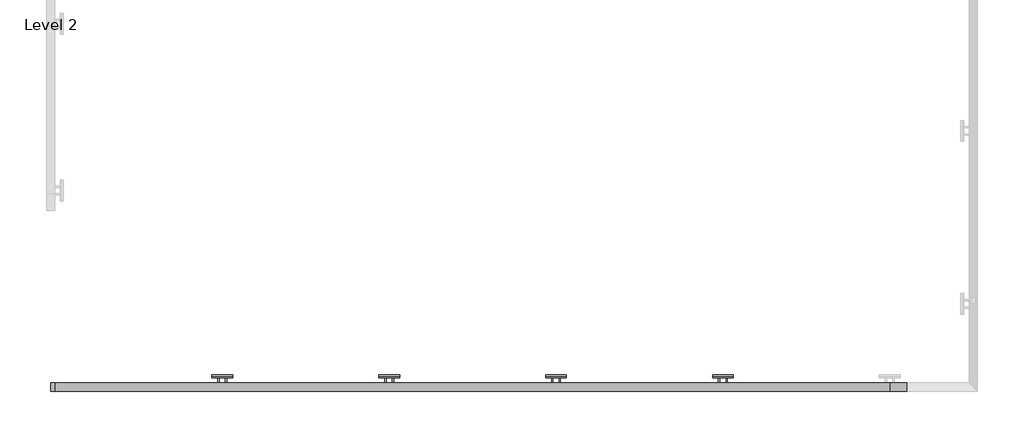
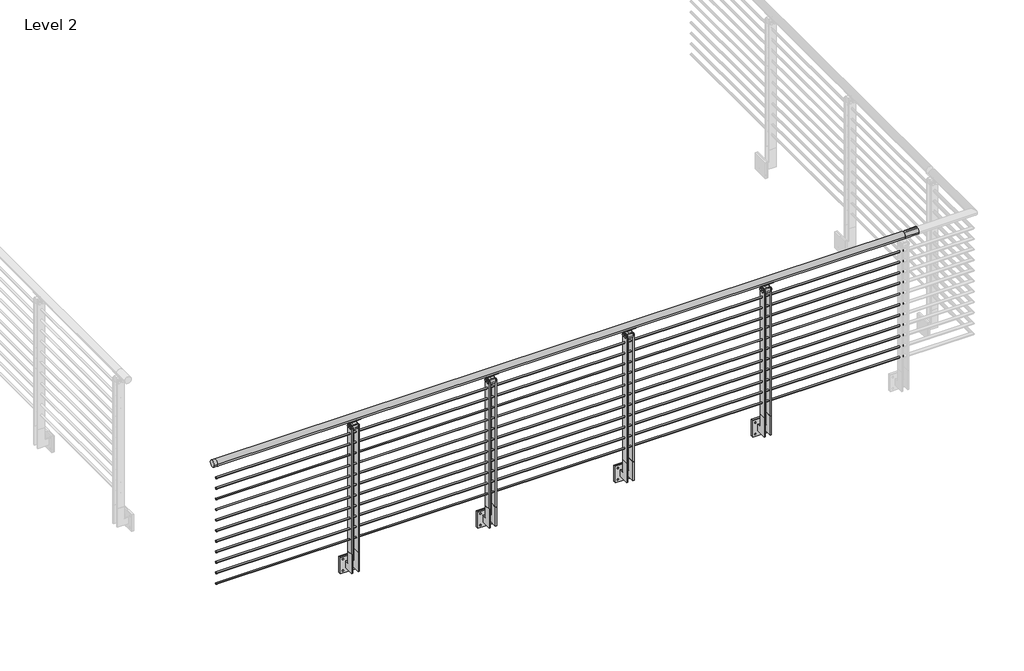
# One storey, part 2 of 31: 1 railing.
"""IFC4 building model written with IfcOpenShell, lengths in millimetres."""

from ifc_helpers import new_model, si_unit, point, frame, frame_2d, origin, place, context, project, spatial, polyline, circle_curve, trimmed, segment, composite_curve, outline, extrude, element, save
from ifc_brep_helpers import plane_surface, cylinder_surface, revolved_surface, advanced_brep

model = new_model("IFC4")

# Units and contexts
model_context = context("Model", 3, world=origin())
ifc_project = project(units=[si_unit("LENGTHUNIT", "METRE", prefix="MILLI")], contexts=[model_context])

# Site, building, storey
site = spatial("IfcSite", under=ifc_project)
building = spatial("IfcBuilding", under=site)
storey = spatial("IfcBuildingStorey", under=building, Name="Level 2", Elevation=3048.0)

# Railing
placement = place(None, origin())
element("IfcRailing", 1, ObjectType="VIVA-BLADE-Multiline-Fascia Mount-Straight", at=placement, inside=storey, context=model_context, shape_type="SolidModel", body=[
    advanced_brep(
    [(-9212.0054973, -70126.0428223, 4102.1), (-9212.0054973, -70176.8428223, 4102.1), (-4132.0054973, -70176.8428223, 4102.1), (-4132.0054973, -70126.0428223, 4102.1), (-4030.4054973, -70176.8428223, 4102.1), (-4030.4054973, -70126.0428223, 4102.1), (-9238.623146, -70176.8428223, 4102.1), (-9238.623146, -70126.0428223, 4102.1)],
    [
        (0, 1, circle_curve(frame((-9212.0054973, -70151.4428223, 4102.1), z_axis=(1.0, 0.0, 0.0), x_axis=(0.0, 1.0, 0.0)), 25.4)),
        (1, 2),
        (2, 3, circle_curve(frame((-4132.0054973, -70151.4428223, 4102.1), z_axis=(-1.0, 0.0, 0.0), x_axis=(0.0, 1.0, 0.0)), 25.4)),
        (3, 0),
        (1, 0, circle_curve(frame((-9212.0054973, -70151.4428223, 4102.1), z_axis=(1.0, 0.0, 0.0), x_axis=(0.0, 1.0, 0.0)), 25.4)),
        (3, 2, circle_curve(frame((-4132.0054973, -70151.4428223, 4102.1), z_axis=(-1.0, 0.0, 0.0), x_axis=(0.0, 1.0, 0.0)), 25.4)),
        (4, 5, circle_curve(frame((-4030.4054973, -70151.4428223, 4102.1), z_axis=(1.0, 0.0, 0.0), x_axis=(0.0, 1.0, 0.0)), 25.4)),
        (5, 4, circle_curve(frame((-4030.4054973, -70151.4428223, 4102.1), z_axis=(1.0, 0.0, 0.0), x_axis=(0.0, 1.0, 0.0)), 25.4)),
        (2, 4),
        (5, 3),
        (6, 7, circle_curve(frame((-9238.623146, -70151.4428223, 4102.1), z_axis=(-1.0, 0.0, 0.0), x_axis=(0.0, 1.0, 0.0)), 25.4)),
        (7, 6, circle_curve(frame((-9238.623146, -70151.4428223, 4102.1), z_axis=(-1.0, 0.0, 0.0), x_axis=(0.0, 1.0, 0.0)), 25.4)),
        (6, 1),
        (0, 7),
    ],
    [
        cylinder_surface(frame((-9212.0054973, -70151.4428223, 4102.1), z_axis=(-1.0, 0.0, 0.0), x_axis=(0.0, 1.0, 0.0)), 25.4),
        plane_surface(frame((-4030.4054973, -70151.4428223, 4127.5), z_axis=(1.0, 0.0, 0.0), x_axis=(0.0, 1.0, 0.0))),
        cylinder_surface(frame((-4132.0054973, -70151.4428223, 4102.1), z_axis=(-1.0, 0.0, 0.0), x_axis=(0.0, 1.0, 0.0)), 25.4),
        plane_surface(frame((-9238.623146, -70151.4428223, 4127.5), z_axis=(-1.0, 0.0, 0.0), x_axis=(0.0, 1.0, 0.0))),
        cylinder_surface(frame((-9238.623146, -70151.4428223, 4102.1), z_axis=(-1.0, 0.0, 0.0), x_axis=(0.0, 1.0, 0.0)), 25.4),
    ],
    [
        (0, [[1, 2, 3, 4]]),
        (0, [[5, -4, 6, -2]]),
        (1, [[7, 8]]),
        (2, [[-3, 9, -8, 10]]),
        (2, [[-6, -10, -7, -9]]),
        (3, [[11, 12]]),
        (4, [[-11, 13, -1, 14]]),
        (4, [[-12, -14, -5, -13]]),
    ],
),
    extrude(outline(composite_curve([segment(trimmed(circle_curve(frame_2d((-70151.4428223, 3981.45)), 6.35), [point((-70145.0928223, 3981.45))], [point((-70157.7928223, 3981.45))], False, "CARTESIAN"), True, "CONTINUOUS"), segment(trimmed(circle_curve(frame_2d((-70151.4428223, 3981.45)), 6.35), [point((-70157.7928223, 3981.45))], [point((-70145.0928223, 3981.45))], False, "CARTESIAN"), True, "CONTINUOUS")], self_intersect=False)), frame((-9212.0054973, 0.0, 0.0), z_axis=(1.0, 0.0, 0.0), x_axis=(0.0, 1.0, 0.0)), (0.0, 0.0, 1.0), 5080.0),
    extrude(outline(composite_curve([segment(trimmed(circle_curve(frame_2d((-70151.4428223, 3898.9)), 6.35), [point((-70145.0928223, 3898.9))], [point((-70157.7928223, 3898.9))], False, "CARTESIAN"), True, "CONTINUOUS"), segment(trimmed(circle_curve(frame_2d((-70151.4428223, 3898.9)), 6.35), [point((-70157.7928223, 3898.9))], [point((-70145.0928223, 3898.9))], False, "CARTESIAN"), True, "CONTINUOUS")], self_intersect=False)), frame((-9212.0054973, 0.0, 0.0), z_axis=(1.0, 0.0, 0.0), x_axis=(0.0, 1.0, 0.0)), (0.0, 0.0, 1.0), 5080.0),
    extrude(outline(composite_curve([segment(trimmed(circle_curve(frame_2d((-70151.4428223, 3816.35)), 6.35), [point((-70145.0928223, 3816.35))], [point((-70157.7928223, 3816.35))], False, "CARTESIAN"), True, "CONTINUOUS"), segment(trimmed(circle_curve(frame_2d((-70151.4428223, 3816.35)), 6.35), [point((-70157.7928223, 3816.35))], [point((-70145.0928223, 3816.35))], False, "CARTESIAN"), True, "CONTINUOUS")], self_intersect=False)), frame((-9212.0054973, 0.0, 0.0), z_axis=(1.0, 0.0, 0.0), x_axis=(0.0, 1.0, 0.0)), (0.0, 0.0, 1.0), 5080.0),
    extrude(outline(composite_curve([segment(trimmed(circle_curve(frame_2d((-70151.4428223, 3733.8)), 6.35), [point((-70145.0928223, 3733.8))], [point((-70157.7928223, 3733.8))], False, "CARTESIAN"), True, "CONTINUOUS"), segment(trimmed(circle_curve(frame_2d((-70151.4428223, 3733.8)), 6.35), [point((-70157.7928223, 3733.8))], [point((-70145.0928223, 3733.8))], False, "CARTESIAN"), True, "CONTINUOUS")], self_intersect=False)), frame((-9212.0054973, 0.0, 0.0), z_axis=(1.0, 0.0, 0.0), x_axis=(0.0, 1.0, 0.0)), (0.0, 0.0, 1.0), 5080.0),
    extrude(outline(composite_curve([segment(trimmed(circle_curve(frame_2d((-70151.4428223, 3651.25)), 6.35), [point((-70145.0928223, 3651.25))], [point((-70157.7928223, 3651.25))], False, "CARTESIAN"), True, "CONTINUOUS"), segment(trimmed(circle_curve(frame_2d((-70151.4428223, 3651.25)), 6.35), [point((-70157.7928223, 3651.25))], [point((-70145.0928223, 3651.25))], False, "CARTESIAN"), True, "CONTINUOUS")], self_intersect=False)), frame((-9212.0054973, 0.0, 0.0), z_axis=(1.0, 0.0, 0.0), x_axis=(0.0, 1.0, 0.0)), (0.0, 0.0, 1.0), 5080.0),
    extrude(outline(composite_curve([segment(trimmed(circle_curve(frame_2d((-70151.4428223, 3568.7)), 6.35), [point((-70145.0928223, 3568.7))], [point((-70157.7928223, 3568.7))], False, "CARTESIAN"), True, "CONTINUOUS"), segment(trimmed(circle_curve(frame_2d((-70151.4428223, 3568.7)), 6.35), [point((-70157.7928223, 3568.7))], [point((-70145.0928223, 3568.7))], False, "CARTESIAN"), True, "CONTINUOUS")], self_intersect=False)), frame((-9212.0054973, 0.0, 0.0), z_axis=(1.0, 0.0, 0.0), x_axis=(0.0, 1.0, 0.0)), (0.0, 0.0, 1.0), 5080.0),
    extrude(outline(composite_curve([segment(trimmed(circle_curve(frame_2d((-70151.4428223, 3486.15)), 6.35), [point((-70145.0928223, 3486.15))], [point((-70157.7928223, 3486.15))], False, "CARTESIAN"), True, "CONTINUOUS"), segment(trimmed(circle_curve(frame_2d((-70151.4428223, 3486.15)), 6.35), [point((-70157.7928223, 3486.15))], [point((-70145.0928223, 3486.15))], False, "CARTESIAN"), True, "CONTINUOUS")], self_intersect=False)), frame((-9212.0054973, 0.0, 0.0), z_axis=(1.0, 0.0, 0.0), x_axis=(0.0, 1.0, 0.0)), (0.0, 0.0, 1.0), 5080.0),
    extrude(outline(composite_curve([segment(trimmed(circle_curve(frame_2d((-70151.4428223, 3403.6)), 6.35), [point((-70145.0928223, 3403.6))], [point((-70157.7928223, 3403.6))], False, "CARTESIAN"), True, "CONTINUOUS"), segment(trimmed(circle_curve(frame_2d((-70151.4428223, 3403.6)), 6.35), [point((-70157.7928223, 3403.6))], [point((-70145.0928223, 3403.6))], False, "CARTESIAN"), True, "CONTINUOUS")], self_intersect=False)), frame((-9212.0054973, 0.0, 0.0), z_axis=(1.0, 0.0, 0.0), x_axis=(0.0, 1.0, 0.0)), (0.0, 0.0, 1.0), 5080.0),
    extrude(outline(composite_curve([segment(trimmed(circle_curve(frame_2d((-70151.4428223, 3321.05)), 6.35), [point((-70145.0928223, 3321.05))], [point((-70157.7928223, 3321.05))], False, "CARTESIAN"), True, "CONTINUOUS"), segment(trimmed(circle_curve(frame_2d((-70151.4428223, 3321.05)), 6.35), [point((-70157.7928223, 3321.05))], [point((-70145.0928223, 3321.05))], False, "CARTESIAN"), True, "CONTINUOUS")], self_intersect=False)), frame((-9212.0054973, 0.0, 0.0), z_axis=(1.0, 0.0, 0.0), x_axis=(0.0, 1.0, 0.0)), (0.0, 0.0, 1.0), 5080.0),
    extrude(outline(composite_curve([segment(trimmed(circle_curve(frame_2d((-70151.4428223, 3238.5)), 6.35), [point((-70145.0928223, 3238.5))], [point((-70157.7928223, 3238.5))], False, "CARTESIAN"), True, "CONTINUOUS"), segment(trimmed(circle_curve(frame_2d((-70151.4428223, 3238.5)), 6.35), [point((-70157.7928223, 3238.5))], [point((-70145.0928223, 3238.5))], False, "CARTESIAN"), True, "CONTINUOUS")], self_intersect=False)), frame((-9212.0054973, 0.0, 0.0), z_axis=(1.0, 0.0, 0.0), x_axis=(0.0, 1.0, 0.0)), (0.0, 0.0, 1.0), 5080.0),
    extrude(outline(composite_curve([segment(trimmed(circle_curve(frame_2d((-70151.4428223, 3155.95)), 6.35), [point((-70145.0928223, 3155.95))], [point((-70157.7928223, 3155.95))], False, "CARTESIAN"), True, "CONTINUOUS"), segment(trimmed(circle_curve(frame_2d((-70151.4428223, 3155.95)), 6.35), [point((-70157.7928223, 3155.95))], [point((-70145.0928223, 3155.95))], False, "CARTESIAN"), True, "CONTINUOUS")], self_intersect=False)), frame((-9212.0054973, 0.0, 0.0), z_axis=(1.0, 0.0, 0.0), x_axis=(0.0, 1.0, 0.0)), (0.0, 0.0, 1.0), 5080.0),
    extrude(outline(polyline([(-70176.8453502, 2901.95), (-70176.8453502, 3048.0), (-70126.0453502, 3048.0), (-70126.0453502, 2952.75), (-70094.2926165, 2952.75), (-70094.2926165, 2901.95), (-70176.8453502, 2901.95)])), frame((-5175.080333, 0.0, 0.0), z_axis=(1.0, 0.0, 0.0), x_axis=(0.0, 1.0, 0.0)), (0.0, 0.0, 1.0), 8.0248357),
    extrude(outline(polyline([(-70126.0453502, 3048.0), (-70126.0453502, 2952.75), (-70094.2926165, 2952.75), (-70094.2926165, 2901.95), (-70176.8453502, 2901.95), (-70176.8453502, 3048.0), (-70126.0453502, 3048.0)])), frame((-5128.9555354, 0.0, 0.0), z_axis=(1.0, 0.0, 0.0), x_axis=(0.0, 1.0, 0.0)), (0.0, 0.0, 1.0), 8.001),
    advanced_brep(
    [(-5102.7680973, -70138.6826986, 4080.0967655), (-5102.7680973, -70163.5547632, 4079.9535285), (-5102.7680973, -70166.3636935, 4075.1267745), (-5102.7680973, -70134.8468012, 4075.707533), (-5193.2428973, -70138.6826986, 4080.0967655), (-5193.2428973, -70134.8468012, 4075.707533), (-5193.2428973, -70166.4774869, 4075.1893964), (-5193.2428973, -70163.6417353, 4080.0018447)],
    [
        (0, 1, circle_curve(frame((-5102.7680973, -70151.2465015, 4102.2115898), z_axis=(-1.0, 0.0, 0.0), x_axis=(0.0, 1.0, 0.0)), 25.4345159)),
        (1, 2, circle_curve(frame((-5102.7680973, -70164.8863884, 4077.4993599), z_axis=(1.0, 0.0, 0.0), x_axis=(0.0, 1.0, 0.0)), 2.7949225)),
        (2, 3, circle_curve(frame((-5102.7680973, -70151.1130385, 4102.9742164), z_axis=(1.0, 0.0, 0.0), x_axis=(0.0, 1.0, 0.0)), 31.75)),
        (3, 0, circle_curve(frame((-5102.7680973, -70137.135141, 4077.5784521), z_axis=(1.0, 0.0, 0.0), x_axis=(0.0, 1.0, 0.0)), 2.9558141)),
        (4, 5, circle_curve(frame((-5193.2428973, -70137.135141, 4077.5784521), z_axis=(-1.0, 0.0, 0.0), x_axis=(0.0, 1.0, 0.0)), 2.9558141)),
        (5, 6, circle_curve(frame((-5193.2428973, -70151.1130385, 4102.9742164), z_axis=(-1.0, 0.0, 0.0), x_axis=(0.0, 1.0, 0.0)), 31.75)),
        (6, 7, circle_curve(frame((-5193.2428973, -70164.8863884, 4077.4993599), z_axis=(-1.0, 0.0, 0.0), x_axis=(0.0, 1.0, 0.0)), 2.7949225)),
        (7, 4, circle_curve(frame((-5193.2428973, -70151.2465015, 4102.2115898), z_axis=(1.0, 0.0, 0.0), x_axis=(0.0, 1.0, 0.0)), 25.4345159)),
        (0, 4),
        (7, 1),
        (6, 2),
        (5, 3),
    ],
    [
        plane_surface(frame((-5102.7680973, -70125.8119857, 4102.2115898), z_axis=(1.0, 0.0, 0.0), x_axis=(0.0, 0.0, -1.0))),
        plane_surface(frame((-5193.2428973, -70125.8119857, 4102.2115898), z_axis=(-1.0, 0.0, 0.0), x_axis=(0.0, 0.0, 1.0))),
        revolved_surface(polyline([(-5193.2428973, -70125.81198560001, 4102.2115898), (-5102.7680973, -70125.81198560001, 4102.2115898)]), (-5193.2428973, -70151.2465015, 4102.2115898), (-1.0, 0.0, 0.0)),
        cylinder_surface(frame((-5193.2428973, -70164.8863884, 4077.4993599), z_axis=(1.0, 0.0, 0.0), x_axis=(0.0, 1.0, 0.0)), 2.7949225),
        cylinder_surface(frame((-5193.2428973, -70151.1130385, 4102.9742164), z_axis=(1.0, 0.0, 0.0), x_axis=(0.0, 1.0, 0.0)), 31.75),
        cylinder_surface(frame((-5193.2428973, -70137.135141, 4077.5784521), z_axis=(1.0, 0.0, 0.0), x_axis=(0.0, 1.0, 0.0)), 2.9558141),
    ],
    [
        (0, [[1, 2, 3, 4]]),
        (1, [[5, 6, 7, 8]]),
        (2, [[-1, 9, -8, 10]]),
        (3, [[-2, -10, -7, 11]]),
        (4, [[-3, -11, -6, 12]]),
        (5, [[-4, -12, -5, -9]]),
    ],
),
    extrude(outline(polyline([(-5084.5174342, -70075.2426165), (-5084.5174342, -70084.7676165), (-5211.5174342, -70084.7676165), (-5211.5174342, -70075.2426165), (-5084.5174342, -70075.2426165)])), frame((0.0, 0.0, 2863.85), z_axis=(0.0, 0.0, 1.0), x_axis=(1.0, 0.0, 0.0)), (0.0, 0.0, 1.0), 127.0),
    extrude(outline(composite_curve([segment(trimmed(circle_curve(frame_2d((4062.4125, -5120.9375825)), 14.3679149), [point((4062.4125, -5135.3054973))], [point((4076.7804149, -5120.9375825))], True, "CARTESIAN"), True, "CONTINUOUS"), segment(polyline([(4076.7804149, -5120.9375825), (4076.7804149, -5175.0734122)]), True, "CONTINUOUS"), segment(trimmed(circle_curve(frame_2d((4062.4125, -5175.0734122)), 14.3679149), [point((4076.7804149, -5175.0734122))], [point((4062.4125, -5160.7054973))], True, "CARTESIAN"), True, "CONTINUOUS"), segment(polyline([(4062.4125, -5160.7054973), (4062.4125, -5135.3054973)]), True, "CONTINUOUS")], self_intersect=False)), frame((0.0, -70153.9828223, 0.0), z_axis=(0.0, 1.0, 0.0), x_axis=(0.0, 0.0, 1.0)), (0.0, 0.0, 1.0), 5.08),
    extrude(outline(polyline([(-5175.080333, -70126.0430256), (-5167.0554973, -70126.0430256), (-5167.0554973, -70176.8453502), (-5175.080333, -70176.8453502), (-5175.080333, -70126.0430256)])), frame((0.0, 0.0, 3048.0), z_axis=(0.0, 0.0, 1.0), x_axis=(1.0, 0.0, 0.0)), (0.0, 0.0, 1.0), 996.95),
    extrude(outline(polyline([(2863.85, -5211.5174342), (2863.85, -5084.5174342), (2990.85, -5084.5174342), (2990.85, -5211.5174342), (2863.85, -5211.5174342)]), holes=[composite_curve([segment(trimmed(circle_curve(frame_2d((2971.8, -5192.4674342)), 4.7068371), [point((2971.8, -5187.7605971))], [point((2971.8, -5197.1742713))], True, "CARTESIAN"), True, "CONTINUOUS"), segment(trimmed(circle_curve(frame_2d((2971.8, -5192.4674342)), 4.7068371), [point((2971.8, -5197.1742713))], [point((2971.8, -5187.7605971))], True, "CARTESIAN"), True, "CONTINUOUS")], self_intersect=False), composite_curve([segment(trimmed(circle_curve(frame_2d((2971.8, -5103.5674342)), 4.7068371), [point((2971.8, -5098.8605971))], [point((2971.8, -5108.2742713))], True, "CARTESIAN"), True, "CONTINUOUS"), segment(trimmed(circle_curve(frame_2d((2971.8, -5103.5674342)), 4.7068371), [point((2971.8, -5108.2742713))], [point((2971.8, -5098.8605971))], True, "CARTESIAN"), True, "CONTINUOUS")], self_intersect=False), composite_curve([segment(trimmed(circle_curve(frame_2d((2882.9, -5103.5674342)), 4.7068371), [point((2882.9, -5098.8605971))], [point((2882.9, -5108.2742713))], True, "CARTESIAN"), True, "CONTINUOUS"), segment(trimmed(circle_curve(frame_2d((2882.9, -5103.5674342)), 4.7068371), [point((2882.9, -5108.2742713))], [point((2882.9, -5098.8605971))], True, "CARTESIAN"), True, "CONTINUOUS")], self_intersect=False), composite_curve([segment(trimmed(circle_curve(frame_2d((2882.9, -5192.4674342)), 4.7068371), [point((2882.9, -5187.7605971))], [point((2882.9, -5197.1742713))], True, "CARTESIAN"), True, "CONTINUOUS"), segment(trimmed(circle_curve(frame_2d((2882.9, -5192.4674342)), 4.7068371), [point((2882.9, -5197.1742713))], [point((2882.9, -5187.7605971))], True, "CARTESIAN"), True, "CONTINUOUS")], self_intersect=False)]), frame((0.0, -70094.2926165, 0.0), z_axis=(0.0, 1.0, 0.0), x_axis=(0.0, 0.0, 1.0)), (0.0, 0.0, 1.0), 9.525),
    extrude(outline(composite_curve([segment(trimmed(circle_curve(frame_2d((-70164.1452992, 4034.0416929)), 8.89), [point((-70173.0352992, 4034.0416929))], [point((-70155.2552992, 4034.0416929))], False, "CARTESIAN"), True, "CONTINUOUS"), segment(trimmed(circle_curve(frame_2d((-70164.1452992, 4034.0416929)), 8.89), [point((-70155.2552992, 4034.0416929))], [point((-70173.0352992, 4034.0416929))], False, "CARTESIAN"), True, "CONTINUOUS")], self_intersect=False)), frame((-5179.7554973, 0.0, 0.0), z_axis=(1.0, 0.0, 0.0), x_axis=(0.0, 1.0, 0.0)), (0.0, 0.0, 1.0), 63.4880631),
    extrude(outline(composite_curve([segment(trimmed(circle_curve(frame_2d((-70138.7454012, 4034.0416929)), 8.89), [point((-70147.6354012, 4034.0416929))], [point((-70129.8554012, 4034.0416929))], False, "CARTESIAN"), True, "CONTINUOUS"), segment(trimmed(circle_curve(frame_2d((-70138.7454012, 4034.0416929)), 8.89), [point((-70129.8554012, 4034.0416929))], [point((-70147.6354012, 4034.0416929))], False, "CARTESIAN"), True, "CONTINUOUS")], self_intersect=False)), frame((-5179.7554973, 0.0, 0.0), z_axis=(1.0, 0.0, 0.0), x_axis=(0.0, 1.0, 0.0)), (0.0, 0.0, 1.0), 63.4880631),
    extrude(outline(polyline([(4022.7123, -5167.0554973), (4022.7123, -5128.9554973), (4056.0625, -5128.9554973), (4062.4125, -5135.3054973), (4062.4125, -5160.7054973), (4056.0625, -5167.0554973), (4022.7123, -5167.0554973)])), frame((0.0, -70176.8453502, 0.0), z_axis=(0.0, 1.0, 0.0), x_axis=(0.0, 0.0, 1.0)), (0.0, 0.0, 1.0), 50.8025279),
    extrude(outline(polyline([(-5128.9555354, -70126.0430256), (-5120.9545354, -70126.0430256), (-5120.9545354, -70176.8453502), (-5128.9555354, -70176.8453502), (-5128.9555354, -70126.0430256)])), frame((0.0, 0.0, 3048.0), z_axis=(0.0, 0.0, 1.0), x_axis=(1.0, 0.0, 0.0)), (0.0, 0.0, 1.0), 996.95),
    extrude(outline(polyline([(-70176.8453502, 2901.95), (-70176.8453502, 3048.0), (-70126.0453502, 3048.0), (-70126.0453502, 2952.75), (-70094.2926165, 2952.75), (-70094.2926165, 2901.95), (-70176.8453502, 2901.95)])), frame((-6191.080333, 0.0, 0.0), z_axis=(1.0, 0.0, 0.0), x_axis=(0.0, 1.0, 0.0)), (0.0, 0.0, 1.0), 8.0248357),
    extrude(outline(polyline([(-70126.0453502, 3048.0), (-70126.0453502, 2952.75), (-70094.2926165, 2952.75), (-70094.2926165, 2901.95), (-70176.8453502, 2901.95), (-70176.8453502, 3048.0), (-70126.0453502, 3048.0)])), frame((-6144.9555354, 0.0, 0.0), z_axis=(1.0, 0.0, 0.0), x_axis=(0.0, 1.0, 0.0)), (0.0, 0.0, 1.0), 8.001),
    advanced_brep(
    [(-6118.7680973, -70138.6826986, 4080.0967655), (-6118.7680973, -70163.5547632, 4079.9535285), (-6118.7680973, -70166.3636935, 4075.1267745), (-6118.7680973, -70134.8468012, 4075.707533), (-6209.2428973, -70138.6826986, 4080.0967655), (-6209.2428973, -70134.8468012, 4075.707533), (-6209.2428973, -70166.4774869, 4075.1893964), (-6209.2428973, -70163.6417353, 4080.0018447)],
    [
        (0, 1, circle_curve(frame((-6118.7680973, -70151.2465015, 4102.2115898), z_axis=(-1.0, 0.0, 0.0), x_axis=(0.0, 1.0, 0.0)), 25.4345159)),
        (1, 2, circle_curve(frame((-6118.7680973, -70164.8863884, 4077.4993599), z_axis=(1.0, 0.0, 0.0), x_axis=(0.0, 1.0, 0.0)), 2.7949225)),
        (2, 3, circle_curve(frame((-6118.7680973, -70151.1130385, 4102.9742164), z_axis=(1.0, 0.0, 0.0), x_axis=(0.0, 1.0, 0.0)), 31.75)),
        (3, 0, circle_curve(frame((-6118.7680973, -70137.135141, 4077.5784521), z_axis=(1.0, 0.0, 0.0), x_axis=(0.0, 1.0, 0.0)), 2.9558141)),
        (4, 5, circle_curve(frame((-6209.2428973, -70137.135141, 4077.5784521), z_axis=(-1.0, 0.0, 0.0), x_axis=(0.0, 1.0, 0.0)), 2.9558141)),
        (5, 6, circle_curve(frame((-6209.2428973, -70151.1130385, 4102.9742164), z_axis=(-1.0, 0.0, 0.0), x_axis=(0.0, 1.0, 0.0)), 31.75)),
        (6, 7, circle_curve(frame((-6209.2428973, -70164.8863884, 4077.4993599), z_axis=(-1.0, 0.0, 0.0), x_axis=(0.0, 1.0, 0.0)), 2.7949225)),
        (7, 4, circle_curve(frame((-6209.2428973, -70151.2465015, 4102.2115898), z_axis=(1.0, 0.0, 0.0), x_axis=(0.0, 1.0, 0.0)), 25.4345159)),
        (0, 4),
        (7, 1),
        (6, 2),
        (5, 3),
    ],
    [
        plane_surface(frame((-6118.7680973, -70125.8119857, 4102.2115898), z_axis=(1.0, 0.0, 0.0), x_axis=(0.0, 0.0, -1.0))),
        plane_surface(frame((-6209.2428973, -70125.8119857, 4102.2115898), z_axis=(-1.0, 0.0, 0.0), x_axis=(0.0, 0.0, 1.0))),
        revolved_surface(polyline([(-6209.2428973, -70125.81198560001, 4102.2115898), (-6118.7680973, -70125.81198560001, 4102.2115898)]), (-6209.2428973, -70151.2465015, 4102.2115898), (-1.0, 0.0, 0.0)),
        cylinder_surface(frame((-6209.2428973, -70164.8863884, 4077.4993599), z_axis=(1.0, 0.0, 0.0), x_axis=(0.0, 1.0, 0.0)), 2.7949225),
        cylinder_surface(frame((-6209.2428973, -70151.1130385, 4102.9742164), z_axis=(1.0, 0.0, 0.0), x_axis=(0.0, 1.0, 0.0)), 31.75),
        cylinder_surface(frame((-6209.2428973, -70137.135141, 4077.5784521), z_axis=(1.0, 0.0, 0.0), x_axis=(0.0, 1.0, 0.0)), 2.9558141),
    ],
    [
        (0, [[1, 2, 3, 4]]),
        (1, [[5, 6, 7, 8]]),
        (2, [[-1, 9, -8, 10]]),
        (3, [[-2, -10, -7, 11]]),
        (4, [[-3, -11, -6, 12]]),
        (5, [[-4, -12, -5, -9]]),
    ],
),
    extrude(outline(polyline([(-6100.5174342, -70075.2426165), (-6100.5174342, -70084.7676165), (-6227.5174342, -70084.7676165), (-6227.5174342, -70075.2426165), (-6100.5174342, -70075.2426165)])), frame((0.0, 0.0, 2863.85), z_axis=(0.0, 0.0, 1.0), x_axis=(1.0, 0.0, 0.0)), (0.0, 0.0, 1.0), 127.0),
    extrude(outline(composite_curve([segment(trimmed(circle_curve(frame_2d((4062.4125, -6136.9375825)), 14.3679149), [point((4062.4125, -6151.3054973))], [point((4076.7804149, -6136.9375825))], True, "CARTESIAN"), True, "CONTINUOUS"), segment(polyline([(4076.7804149, -6136.9375825), (4076.7804149, -6191.0734122)]), True, "CONTINUOUS"), segment(trimmed(circle_curve(frame_2d((4062.4125, -6191.0734122)), 14.3679149), [point((4076.7804149, -6191.0734122))], [point((4062.4125, -6176.7054973))], True, "CARTESIAN"), True, "CONTINUOUS"), segment(polyline([(4062.4125, -6176.7054973), (4062.4125, -6151.3054973)]), True, "CONTINUOUS")], self_intersect=False)), frame((0.0, -70153.9828223, 0.0), z_axis=(0.0, 1.0, 0.0), x_axis=(0.0, 0.0, 1.0)), (0.0, 0.0, 1.0), 5.08),
    extrude(outline(polyline([(-6191.080333, -70126.0430256), (-6183.0554973, -70126.0430256), (-6183.0554973, -70176.8453502), (-6191.080333, -70176.8453502), (-6191.080333, -70126.0430256)])), frame((0.0, 0.0, 3048.0), z_axis=(0.0, 0.0, 1.0), x_axis=(1.0, 0.0, 0.0)), (0.0, 0.0, 1.0), 996.95),
    extrude(outline(polyline([(2863.85, -6227.5174342), (2863.85, -6100.5174342), (2990.85, -6100.5174342), (2990.85, -6227.5174342), (2863.85, -6227.5174342)]), holes=[composite_curve([segment(trimmed(circle_curve(frame_2d((2971.8, -6208.4674342)), 4.7068371), [point((2971.8, -6203.7605971))], [point((2971.8, -6213.1742713))], True, "CARTESIAN"), True, "CONTINUOUS"), segment(trimmed(circle_curve(frame_2d((2971.8, -6208.4674342)), 4.7068371), [point((2971.8, -6213.1742713))], [point((2971.8, -6203.7605971))], True, "CARTESIAN"), True, "CONTINUOUS")], self_intersect=False), composite_curve([segment(trimmed(circle_curve(frame_2d((2971.8, -6119.5674342)), 4.7068371), [point((2971.8, -6114.8605971))], [point((2971.8, -6124.2742713))], True, "CARTESIAN"), True, "CONTINUOUS"), segment(trimmed(circle_curve(frame_2d((2971.8, -6119.5674342)), 4.7068371), [point((2971.8, -6124.2742713))], [point((2971.8, -6114.8605971))], True, "CARTESIAN"), True, "CONTINUOUS")], self_intersect=False), composite_curve([segment(trimmed(circle_curve(frame_2d((2882.9, -6119.5674342)), 4.7068371), [point((2882.9, -6114.8605971))], [point((2882.9, -6124.2742713))], True, "CARTESIAN"), True, "CONTINUOUS"), segment(trimmed(circle_curve(frame_2d((2882.9, -6119.5674342)), 4.7068371), [point((2882.9, -6124.2742713))], [point((2882.9, -6114.8605971))], True, "CARTESIAN"), True, "CONTINUOUS")], self_intersect=False), composite_curve([segment(trimmed(circle_curve(frame_2d((2882.9, -6208.4674342)), 4.7068371), [point((2882.9, -6203.7605971))], [point((2882.9, -6213.1742713))], True, "CARTESIAN"), True, "CONTINUOUS"), segment(trimmed(circle_curve(frame_2d((2882.9, -6208.4674342)), 4.7068371), [point((2882.9, -6213.1742713))], [point((2882.9, -6203.7605971))], True, "CARTESIAN"), True, "CONTINUOUS")], self_intersect=False)]), frame((0.0, -70094.2926165, 0.0), z_axis=(0.0, 1.0, 0.0), x_axis=(0.0, 0.0, 1.0)), (0.0, 0.0, 1.0), 9.525),
    extrude(outline(composite_curve([segment(trimmed(circle_curve(frame_2d((-70164.1452992, 4034.0416929)), 8.89), [point((-70173.0352992, 4034.0416929))], [point((-70155.2552992, 4034.0416929))], False, "CARTESIAN"), True, "CONTINUOUS"), segment(trimmed(circle_curve(frame_2d((-70164.1452992, 4034.0416929)), 8.89), [point((-70155.2552992, 4034.0416929))], [point((-70173.0352992, 4034.0416929))], False, "CARTESIAN"), True, "CONTINUOUS")], self_intersect=False)), frame((-6195.7554973, 0.0, 0.0), z_axis=(1.0, 0.0, 0.0), x_axis=(0.0, 1.0, 0.0)), (0.0, 0.0, 1.0), 63.4880631),
    extrude(outline(composite_curve([segment(trimmed(circle_curve(frame_2d((-70138.7454012, 4034.0416929)), 8.89), [point((-70147.6354012, 4034.0416929))], [point((-70129.8554012, 4034.0416929))], False, "CARTESIAN"), True, "CONTINUOUS"), segment(trimmed(circle_curve(frame_2d((-70138.7454012, 4034.0416929)), 8.89), [point((-70129.8554012, 4034.0416929))], [point((-70147.6354012, 4034.0416929))], False, "CARTESIAN"), True, "CONTINUOUS")], self_intersect=False)), frame((-6195.7554973, 0.0, 0.0), z_axis=(1.0, 0.0, 0.0), x_axis=(0.0, 1.0, 0.0)), (0.0, 0.0, 1.0), 63.4880631),
    extrude(outline(polyline([(4022.7123, -6183.0554973), (4022.7123, -6144.9554973), (4056.0625, -6144.9554973), (4062.4125, -6151.3054973), (4062.4125, -6176.7054973), (4056.0625, -6183.0554973), (4022.7123, -6183.0554973)])), frame((0.0, -70176.8453502, 0.0), z_axis=(0.0, 1.0, 0.0), x_axis=(0.0, 0.0, 1.0)), (0.0, 0.0, 1.0), 50.8025279),
    extrude(outline(polyline([(-6144.9555354, -70126.0430256), (-6136.9545354, -70126.0430256), (-6136.9545354, -70176.8453502), (-6144.9555354, -70176.8453502), (-6144.9555354, -70126.0430256)])), frame((0.0, 0.0, 3048.0), z_axis=(0.0, 0.0, 1.0), x_axis=(1.0, 0.0, 0.0)), (0.0, 0.0, 1.0), 996.95),
    extrude(outline(polyline([(-70176.8453502, 2901.95), (-70176.8453502, 3048.0), (-70126.0453502, 3048.0), (-70126.0453502, 2952.75), (-70094.2926165, 2952.75), (-70094.2926165, 2901.95), (-70176.8453502, 2901.95)])), frame((-7207.080333, 0.0, 0.0), z_axis=(1.0, 0.0, 0.0), x_axis=(0.0, 1.0, 0.0)), (0.0, 0.0, 1.0), 8.0248357),
    extrude(outline(polyline([(-70126.0453502, 3048.0), (-70126.0453502, 2952.75), (-70094.2926165, 2952.75), (-70094.2926165, 2901.95), (-70176.8453502, 2901.95), (-70176.8453502, 3048.0), (-70126.0453502, 3048.0)])), frame((-7160.9555354, 0.0, 0.0), z_axis=(1.0, 0.0, 0.0), x_axis=(0.0, 1.0, 0.0)), (0.0, 0.0, 1.0), 8.001),
    advanced_brep(
    [(-7134.7680973, -70138.6826986, 4080.0967655), (-7134.7680973, -70163.5547632, 4079.9535285), (-7134.7680973, -70166.3636935, 4075.1267745), (-7134.7680973, -70134.8468012, 4075.707533), (-7225.2428973, -70138.6826986, 4080.0967655), (-7225.2428973, -70134.8468012, 4075.707533), (-7225.2428973, -70166.4774869, 4075.1893964), (-7225.2428973, -70163.6417353, 4080.0018447)],
    [
        (0, 1, circle_curve(frame((-7134.7680973, -70151.2465015, 4102.2115898), z_axis=(-1.0, 0.0, 0.0), x_axis=(0.0, 1.0, 0.0)), 25.4345159)),
        (1, 2, circle_curve(frame((-7134.7680973, -70164.8863884, 4077.4993599), z_axis=(1.0, 0.0, 0.0), x_axis=(0.0, 1.0, 0.0)), 2.7949225)),
        (2, 3, circle_curve(frame((-7134.7680973, -70151.1130385, 4102.9742164), z_axis=(1.0, 0.0, 0.0), x_axis=(0.0, 1.0, 0.0)), 31.75)),
        (3, 0, circle_curve(frame((-7134.7680973, -70137.135141, 4077.5784521), z_axis=(1.0, 0.0, 0.0), x_axis=(0.0, 1.0, 0.0)), 2.9558141)),
        (4, 5, circle_curve(frame((-7225.2428973, -70137.135141, 4077.5784521), z_axis=(-1.0, 0.0, 0.0), x_axis=(0.0, 1.0, 0.0)), 2.9558141)),
        (5, 6, circle_curve(frame((-7225.2428973, -70151.1130385, 4102.9742164), z_axis=(-1.0, 0.0, 0.0), x_axis=(0.0, 1.0, 0.0)), 31.75)),
        (6, 7, circle_curve(frame((-7225.2428973, -70164.8863884, 4077.4993599), z_axis=(-1.0, 0.0, 0.0), x_axis=(0.0, 1.0, 0.0)), 2.7949225)),
        (7, 4, circle_curve(frame((-7225.2428973, -70151.2465015, 4102.2115898), z_axis=(1.0, 0.0, 0.0), x_axis=(0.0, 1.0, 0.0)), 25.4345159)),
        (0, 4),
        (7, 1),
        (6, 2),
        (5, 3),
    ],
    [
        plane_surface(frame((-7134.7680973, -70125.8119857, 4102.2115898), z_axis=(1.0, 0.0, 0.0), x_axis=(0.0, 0.0, -1.0))),
        plane_surface(frame((-7225.2428973, -70125.8119857, 4102.2115898), z_axis=(-1.0, 0.0, 0.0), x_axis=(0.0, 0.0, 1.0))),
        revolved_surface(polyline([(-7225.2428973, -70125.81198560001, 4102.2115898), (-7134.7680973, -70125.81198560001, 4102.2115898)]), (-7225.2428973, -70151.2465015, 4102.2115898), (-1.0, 0.0, 0.0)),
        cylinder_surface(frame((-7225.2428973, -70164.8863884, 4077.4993599), z_axis=(1.0, 0.0, 0.0), x_axis=(0.0, 1.0, 0.0)), 2.7949225),
        cylinder_surface(frame((-7225.2428973, -70151.1130385, 4102.9742164), z_axis=(1.0, 0.0, 0.0), x_axis=(0.0, 1.0, 0.0)), 31.75),
        cylinder_surface(frame((-7225.2428973, -70137.135141, 4077.5784521), z_axis=(1.0, 0.0, 0.0), x_axis=(0.0, 1.0, 0.0)), 2.9558141),
    ],
    [
        (0, [[1, 2, 3, 4]]),
        (1, [[5, 6, 7, 8]]),
        (2, [[-1, 9, -8, 10]]),
        (3, [[-2, -10, -7, 11]]),
        (4, [[-3, -11, -6, 12]]),
        (5, [[-4, -12, -5, -9]]),
    ],
),
    extrude(outline(polyline([(-7116.5174342, -70075.2426165), (-7116.5174342, -70084.7676165), (-7243.5174342, -70084.7676165), (-7243.5174342, -70075.2426165), (-7116.5174342, -70075.2426165)])), frame((0.0, 0.0, 2863.85), z_axis=(0.0, 0.0, 1.0), x_axis=(1.0, 0.0, 0.0)), (0.0, 0.0, 1.0), 127.0),
    extrude(outline(composite_curve([segment(trimmed(circle_curve(frame_2d((4062.4125, -7152.9375825)), 14.3679149), [point((4062.4125, -7167.3054973))], [point((4076.7804149, -7152.9375825))], True, "CARTESIAN"), True, "CONTINUOUS"), segment(polyline([(4076.7804149, -7152.9375825), (4076.7804149, -7207.0734122)]), True, "CONTINUOUS"), segment(trimmed(circle_curve(frame_2d((4062.4125, -7207.0734122)), 14.3679149), [point((4076.7804149, -7207.0734122))], [point((4062.4125, -7192.7054973))], True, "CARTESIAN"), True, "CONTINUOUS"), segment(polyline([(4062.4125, -7192.7054973), (4062.4125, -7167.3054973)]), True, "CONTINUOUS")], self_intersect=False)), frame((0.0, -70153.9828223, 0.0), z_axis=(0.0, 1.0, 0.0), x_axis=(0.0, 0.0, 1.0)), (0.0, 0.0, 1.0), 5.08),
    extrude(outline(polyline([(-7207.080333, -70126.0430256), (-7199.0554973, -70126.0430256), (-7199.0554973, -70176.8453502), (-7207.080333, -70176.8453502), (-7207.080333, -70126.0430256)])), frame((0.0, 0.0, 3048.0), z_axis=(0.0, 0.0, 1.0), x_axis=(1.0, 0.0, 0.0)), (0.0, 0.0, 1.0), 996.95),
    extrude(outline(polyline([(2863.85, -7243.5174342), (2863.85, -7116.5174342), (2990.85, -7116.5174342), (2990.85, -7243.5174342), (2863.85, -7243.5174342)]), holes=[composite_curve([segment(trimmed(circle_curve(frame_2d((2971.8, -7224.4674342)), 4.7068371), [point((2971.8, -7219.7605971))], [point((2971.8, -7229.1742713))], True, "CARTESIAN"), True, "CONTINUOUS"), segment(trimmed(circle_curve(frame_2d((2971.8, -7224.4674342)), 4.7068371), [point((2971.8, -7229.1742713))], [point((2971.8, -7219.7605971))], True, "CARTESIAN"), True, "CONTINUOUS")], self_intersect=False), composite_curve([segment(trimmed(circle_curve(frame_2d((2971.8, -7135.5674342)), 4.7068371), [point((2971.8, -7130.8605971))], [point((2971.8, -7140.2742713))], True, "CARTESIAN"), True, "CONTINUOUS"), segment(trimmed(circle_curve(frame_2d((2971.8, -7135.5674342)), 4.7068371), [point((2971.8, -7140.2742713))], [point((2971.8, -7130.8605971))], True, "CARTESIAN"), True, "CONTINUOUS")], self_intersect=False), composite_curve([segment(trimmed(circle_curve(frame_2d((2882.9, -7135.5674342)), 4.7068371), [point((2882.9, -7130.8605971))], [point((2882.9, -7140.2742713))], True, "CARTESIAN"), True, "CONTINUOUS"), segment(trimmed(circle_curve(frame_2d((2882.9, -7135.5674342)), 4.7068371), [point((2882.9, -7140.2742713))], [point((2882.9, -7130.8605971))], True, "CARTESIAN"), True, "CONTINUOUS")], self_intersect=False), composite_curve([segment(trimmed(circle_curve(frame_2d((2882.9, -7224.4674342)), 4.7068371), [point((2882.9, -7219.7605971))], [point((2882.9, -7229.1742713))], True, "CARTESIAN"), True, "CONTINUOUS"), segment(trimmed(circle_curve(frame_2d((2882.9, -7224.4674342)), 4.7068371), [point((2882.9, -7229.1742713))], [point((2882.9, -7219.7605971))], True, "CARTESIAN"), True, "CONTINUOUS")], self_intersect=False)]), frame((0.0, -70094.2926165, 0.0), z_axis=(0.0, 1.0, 0.0), x_axis=(0.0, 0.0, 1.0)), (0.0, 0.0, 1.0), 9.525),
    extrude(outline(composite_curve([segment(trimmed(circle_curve(frame_2d((-70164.1452992, 4034.0416929)), 8.89), [point((-70173.0352992, 4034.0416929))], [point((-70155.2552992, 4034.0416929))], False, "CARTESIAN"), True, "CONTINUOUS"), segment(trimmed(circle_curve(frame_2d((-70164.1452992, 4034.0416929)), 8.89), [point((-70155.2552992, 4034.0416929))], [point((-70173.0352992, 4034.0416929))], False, "CARTESIAN"), True, "CONTINUOUS")], self_intersect=False)), frame((-7211.7554973, 0.0, 0.0), z_axis=(1.0, 0.0, 0.0), x_axis=(0.0, 1.0, 0.0)), (0.0, 0.0, 1.0), 63.4880631),
    extrude(outline(composite_curve([segment(trimmed(circle_curve(frame_2d((-70138.7454012, 4034.0416929)), 8.89), [point((-70147.6354012, 4034.0416929))], [point((-70129.8554012, 4034.0416929))], False, "CARTESIAN"), True, "CONTINUOUS"), segment(trimmed(circle_curve(frame_2d((-70138.7454012, 4034.0416929)), 8.89), [point((-70129.8554012, 4034.0416929))], [point((-70147.6354012, 4034.0416929))], False, "CARTESIAN"), True, "CONTINUOUS")], self_intersect=False)), frame((-7211.7554973, 0.0, 0.0), z_axis=(1.0, 0.0, 0.0), x_axis=(0.0, 1.0, 0.0)), (0.0, 0.0, 1.0), 63.4880631),
    extrude(outline(polyline([(4022.7123, -7199.0554973), (4022.7123, -7160.9554973), (4056.0625, -7160.9554973), (4062.4125, -7167.3054973), (4062.4125, -7192.7054973), (4056.0625, -7199.0554973), (4022.7123, -7199.0554973)])), frame((0.0, -70176.8453502, 0.0), z_axis=(0.0, 1.0, 0.0), x_axis=(0.0, 0.0, 1.0)), (0.0, 0.0, 1.0), 50.8025279),
    extrude(outline(polyline([(-7160.9555354, -70126.0430256), (-7152.9545354, -70126.0430256), (-7152.9545354, -70176.8453502), (-7160.9555354, -70176.8453502), (-7160.9555354, -70126.0430256)])), frame((0.0, 0.0, 3048.0), z_axis=(0.0, 0.0, 1.0), x_axis=(1.0, 0.0, 0.0)), (0.0, 0.0, 1.0), 996.95),
    extrude(outline(polyline([(-70176.8453502, 2901.95), (-70176.8453502, 3048.0), (-70126.0453502, 3048.0), (-70126.0453502, 2952.75), (-70094.2926165, 2952.75), (-70094.2926165, 2901.95), (-70176.8453502, 2901.95)])), frame((-8223.080333, 0.0, 0.0), z_axis=(1.0, 0.0, 0.0), x_axis=(0.0, 1.0, 0.0)), (0.0, 0.0, 1.0), 8.0248357),
    extrude(outline(polyline([(-70126.0453502, 3048.0), (-70126.0453502, 2952.75), (-70094.2926165, 2952.75), (-70094.2926165, 2901.95), (-70176.8453502, 2901.95), (-70176.8453502, 3048.0), (-70126.0453502, 3048.0)])), frame((-8176.9555354, 0.0, 0.0), z_axis=(1.0, 0.0, 0.0), x_axis=(0.0, 1.0, 0.0)), (0.0, 0.0, 1.0), 8.001),
    advanced_brep(
    [(-8150.7680973, -70138.6826986, 4080.0967655), (-8150.7680973, -70163.5547632, 4079.9535285), (-8150.7680973, -70166.3636935, 4075.1267745), (-8150.7680973, -70134.8468012, 4075.707533), (-8241.2428973, -70138.6826986, 4080.0967655), (-8241.2428973, -70134.8468012, 4075.707533), (-8241.2428973, -70166.4774869, 4075.1893964), (-8241.2428973, -70163.6417353, 4080.0018447)],
    [
        (0, 1, circle_curve(frame((-8150.7680973, -70151.2465015, 4102.2115898), z_axis=(-1.0, 0.0, 0.0), x_axis=(0.0, 1.0, 0.0)), 25.4345159)),
        (1, 2, circle_curve(frame((-8150.7680973, -70164.8863884, 4077.4993599), z_axis=(1.0, 0.0, 0.0), x_axis=(0.0, 1.0, 0.0)), 2.7949225)),
        (2, 3, circle_curve(frame((-8150.7680973, -70151.1130385, 4102.9742164), z_axis=(1.0, 0.0, 0.0), x_axis=(0.0, 1.0, 0.0)), 31.75)),
        (3, 0, circle_curve(frame((-8150.7680973, -70137.135141, 4077.5784521), z_axis=(1.0, 0.0, 0.0), x_axis=(0.0, 1.0, 0.0)), 2.9558141)),
        (4, 5, circle_curve(frame((-8241.2428973, -70137.135141, 4077.5784521), z_axis=(-1.0, 0.0, 0.0), x_axis=(0.0, 1.0, 0.0)), 2.9558141)),
        (5, 6, circle_curve(frame((-8241.2428973, -70151.1130385, 4102.9742164), z_axis=(-1.0, 0.0, 0.0), x_axis=(0.0, 1.0, 0.0)), 31.75)),
        (6, 7, circle_curve(frame((-8241.2428973, -70164.8863884, 4077.4993599), z_axis=(-1.0, 0.0, 0.0), x_axis=(0.0, 1.0, 0.0)), 2.7949225)),
        (7, 4, circle_curve(frame((-8241.2428973, -70151.2465015, 4102.2115898), z_axis=(1.0, 0.0, 0.0), x_axis=(0.0, 1.0, 0.0)), 25.4345159)),
        (0, 4),
        (7, 1),
        (6, 2),
        (5, 3),
    ],
    [
        plane_surface(frame((-8150.7680973, -70125.8119857, 4102.2115898), z_axis=(1.0, 0.0, 0.0), x_axis=(0.0, 0.0, -1.0))),
        plane_surface(frame((-8241.2428973, -70125.8119857, 4102.2115898), z_axis=(-1.0, 0.0, 0.0), x_axis=(0.0, 0.0, 1.0))),
        revolved_surface(polyline([(-8241.2428973, -70125.81198560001, 4102.2115898), (-8150.7680973, -70125.81198560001, 4102.2115898)]), (-8241.2428973, -70151.2465015, 4102.2115898), (-1.0, 0.0, 0.0)),
        cylinder_surface(frame((-8241.2428973, -70164.8863884, 4077.4993599), z_axis=(1.0, 0.0, 0.0), x_axis=(0.0, 1.0, 0.0)), 2.7949225),
        cylinder_surface(frame((-8241.2428973, -70151.1130385, 4102.9742164), z_axis=(1.0, 0.0, 0.0), x_axis=(0.0, 1.0, 0.0)), 31.75),
        cylinder_surface(frame((-8241.2428973, -70137.135141, 4077.5784521), z_axis=(1.0, 0.0, 0.0), x_axis=(0.0, 1.0, 0.0)), 2.9558141),
    ],
    [
        (0, [[1, 2, 3, 4]]),
        (1, [[5, 6, 7, 8]]),
        (2, [[-1, 9, -8, 10]]),
        (3, [[-2, -10, -7, 11]]),
        (4, [[-3, -11, -6, 12]]),
        (5, [[-4, -12, -5, -9]]),
    ],
),
    extrude(outline(polyline([(-8132.5174342, -70075.2426165), (-8132.5174342, -70084.7676165), (-8259.5174342, -70084.7676165), (-8259.5174342, -70075.2426165), (-8132.5174342, -70075.2426165)])), frame((0.0, 0.0, 2863.85), z_axis=(0.0, 0.0, 1.0), x_axis=(1.0, 0.0, 0.0)), (0.0, 0.0, 1.0), 127.0),
    extrude(outline(composite_curve([segment(trimmed(circle_curve(frame_2d((4062.4125, -8168.9375825)), 14.3679149), [point((4062.4125, -8183.3054973))], [point((4076.7804149, -8168.9375825))], True, "CARTESIAN"), True, "CONTINUOUS"), segment(polyline([(4076.7804149, -8168.9375825), (4076.7804149, -8223.0734122)]), True, "CONTINUOUS"), segment(trimmed(circle_curve(frame_2d((4062.4125, -8223.0734122)), 14.3679149), [point((4076.7804149, -8223.0734122))], [point((4062.4125, -8208.7054973))], True, "CARTESIAN"), True, "CONTINUOUS"), segment(polyline([(4062.4125, -8208.7054973), (4062.4125, -8183.3054973)]), True, "CONTINUOUS")], self_intersect=False)), frame((0.0, -70153.9828223, 0.0), z_axis=(0.0, 1.0, 0.0), x_axis=(0.0, 0.0, 1.0)), (0.0, 0.0, 1.0), 5.08),
    extrude(outline(polyline([(-8223.080333, -70126.0430256), (-8215.0554973, -70126.0430256), (-8215.0554973, -70176.8453502), (-8223.080333, -70176.8453502), (-8223.080333, -70126.0430256)])), frame((0.0, 0.0, 3048.0), z_axis=(0.0, 0.0, 1.0), x_axis=(1.0, 0.0, 0.0)), (0.0, 0.0, 1.0), 996.95),
    extrude(outline(polyline([(2863.85, -8259.5174342), (2863.85, -8132.5174342), (2990.85, -8132.5174342), (2990.85, -8259.5174342), (2863.85, -8259.5174342)]), holes=[composite_curve([segment(trimmed(circle_curve(frame_2d((2971.8, -8240.4674342)), 4.7068371), [point((2971.8, -8235.7605971))], [point((2971.8, -8245.1742713))], True, "CARTESIAN"), True, "CONTINUOUS"), segment(trimmed(circle_curve(frame_2d((2971.8, -8240.4674342)), 4.7068371), [point((2971.8, -8245.1742713))], [point((2971.8, -8235.7605971))], True, "CARTESIAN"), True, "CONTINUOUS")], self_intersect=False), composite_curve([segment(trimmed(circle_curve(frame_2d((2971.8, -8151.5674342)), 4.7068371), [point((2971.8, -8146.8605971))], [point((2971.8, -8156.2742713))], True, "CARTESIAN"), True, "CONTINUOUS"), segment(trimmed(circle_curve(frame_2d((2971.8, -8151.5674342)), 4.7068371), [point((2971.8, -8156.2742713))], [point((2971.8, -8146.8605971))], True, "CARTESIAN"), True, "CONTINUOUS")], self_intersect=False), composite_curve([segment(trimmed(circle_curve(frame_2d((2882.9, -8151.5674342)), 4.7068371), [point((2882.9, -8146.8605971))], [point((2882.9, -8156.2742713))], True, "CARTESIAN"), True, "CONTINUOUS"), segment(trimmed(circle_curve(frame_2d((2882.9, -8151.5674342)), 4.7068371), [point((2882.9, -8156.2742713))], [point((2882.9, -8146.8605971))], True, "CARTESIAN"), True, "CONTINUOUS")], self_intersect=False), composite_curve([segment(trimmed(circle_curve(frame_2d((2882.9, -8240.4674342)), 4.7068371), [point((2882.9, -8235.7605971))], [point((2882.9, -8245.1742713))], True, "CARTESIAN"), True, "CONTINUOUS"), segment(trimmed(circle_curve(frame_2d((2882.9, -8240.4674342)), 4.7068371), [point((2882.9, -8245.1742713))], [point((2882.9, -8235.7605971))], True, "CARTESIAN"), True, "CONTINUOUS")], self_intersect=False)]), frame((0.0, -70094.2926165, 0.0), z_axis=(0.0, 1.0, 0.0), x_axis=(0.0, 0.0, 1.0)), (0.0, 0.0, 1.0), 9.525),
    extrude(outline(composite_curve([segment(trimmed(circle_curve(frame_2d((-70164.1452992, 4034.0416929)), 8.89), [point((-70173.0352992, 4034.0416929))], [point((-70155.2552992, 4034.0416929))], False, "CARTESIAN"), True, "CONTINUOUS"), segment(trimmed(circle_curve(frame_2d((-70164.1452992, 4034.0416929)), 8.89), [point((-70155.2552992, 4034.0416929))], [point((-70173.0352992, 4034.0416929))], False, "CARTESIAN"), True, "CONTINUOUS")], self_intersect=False)), frame((-8227.7554973, 0.0, 0.0), z_axis=(1.0, 0.0, 0.0), x_axis=(0.0, 1.0, 0.0)), (0.0, 0.0, 1.0), 63.4880631),
    extrude(outline(composite_curve([segment(trimmed(circle_curve(frame_2d((-70138.7454012, 4034.0416929)), 8.89), [point((-70147.6354012, 4034.0416929))], [point((-70129.8554012, 4034.0416929))], False, "CARTESIAN"), True, "CONTINUOUS"), segment(trimmed(circle_curve(frame_2d((-70138.7454012, 4034.0416929)), 8.89), [point((-70129.8554012, 4034.0416929))], [point((-70147.6354012, 4034.0416929))], False, "CARTESIAN"), True, "CONTINUOUS")], self_intersect=False)), frame((-8227.7554973, 0.0, 0.0), z_axis=(1.0, 0.0, 0.0), x_axis=(0.0, 1.0, 0.0)), (0.0, 0.0, 1.0), 63.4880631),
    extrude(outline(polyline([(4022.7123, -8215.0554973), (4022.7123, -8176.9554973), (4056.0625, -8176.9554973), (4062.4125, -8183.3054973), (4062.4125, -8208.7054973), (4056.0625, -8215.0554973), (4022.7123, -8215.0554973)])), frame((0.0, -70176.8453502, 0.0), z_axis=(0.0, 1.0, 0.0), x_axis=(0.0, 0.0, 1.0)), (0.0, 0.0, 1.0), 50.8025279),
    extrude(outline(polyline([(-8176.9555354, -70126.0430256), (-8168.9545354, -70126.0430256), (-8168.9545354, -70176.8453502), (-8176.9555354, -70176.8453502), (-8176.9555354, -70126.0430256)])), frame((0.0, 0.0, 3048.0), z_axis=(0.0, 0.0, 1.0), x_axis=(1.0, 0.0, 0.0)), (0.0, 0.0, 1.0), 996.95),
])

save(model, "model.ifc")
